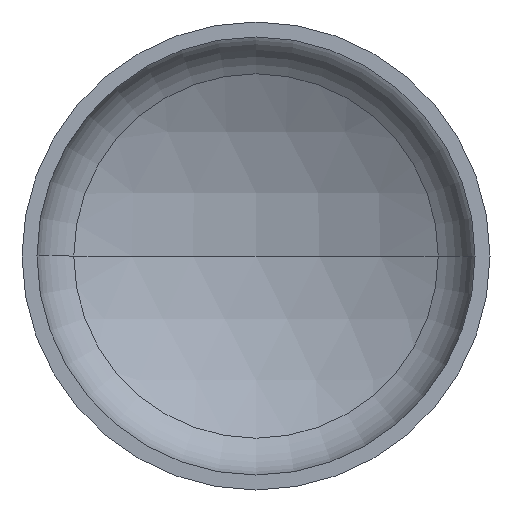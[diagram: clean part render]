
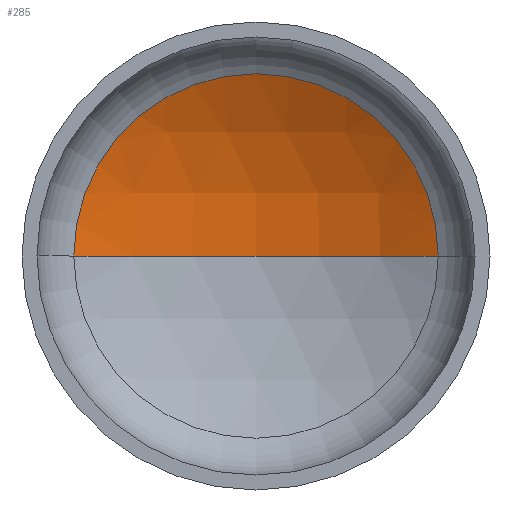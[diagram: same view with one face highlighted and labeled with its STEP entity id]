
A CAD part, front view. The second image highlights one B-rep face of the part: STEP entity #285.
In plain terms, the highlighted spherical face has radius 2400 mm.
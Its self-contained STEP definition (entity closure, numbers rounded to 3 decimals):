
#17 = VERTEX_POINT ( 'NONE', #179 ) ;
#30 = EDGE_LOOP ( 'NONE', ( #375, #81, #51 ) ) ;
#36 = AXIS2_PLACEMENT_3D ( 'NONE', #320, #339, #209 ) ;
#51 = ORIENTED_EDGE ( 'NONE', *, *, #172, .T. ) ;
#53 = AXIS2_PLACEMENT_3D ( 'NONE', #315, #181, #336 ) ;
#60 = AXIS2_PLACEMENT_3D ( 'NONE', #227, #385, #402 ) ;
#62 = AXIS2_PLACEMENT_3D ( 'NONE', #297, #165, #322 ) ;
#68 = VERTEX_POINT ( 'NONE', #249 ) ;
#81 = ORIENTED_EDGE ( 'NONE', *, *, #186, .T. ) ;
#124 = VERTEX_POINT ( 'NONE', #401 ) ;
#165 = DIRECTION ( 'NONE',  ( 0., -1., 0. ) ) ;
#168 = CIRCLE ( 'NONE', #53, 2400. ) ;
#172 = EDGE_CURVE ( 'NONE', #124, #17, #288, .T. ) ;
#179 = CARTESIAN_POINT ( 'NONE',  ( -1167.835, 501.868, 0. ) ) ;
#181 = DIRECTION ( 'NONE',  ( 0., 0., 1. ) ) ;
#186 = EDGE_CURVE ( 'NONE', #68, #124, #343, .T. ) ;
#192 = EDGE_CURVE ( 'NONE', #68, #17, #168, .T. ) ;
#206 = FACE_OUTER_BOUND ( 'NONE', #30, .T. ) ;
#209 = DIRECTION ( 'NONE',  ( -1., 0., 0. ) ) ;
#214 = SPHERICAL_SURFACE ( 'NONE', #36, 2400. ) ;
#227 = CARTESIAN_POINT ( 'NONE',  ( 0., -1594.835, 0. ) ) ;
#249 = CARTESIAN_POINT ( 'NONE',  ( 0., 805.165, 0. ) ) ;
#285 = ADVANCED_FACE ( 'NONE', ( #206 ), #214, .F. ) ;
#288 = CIRCLE ( 'NONE', #62, 1167.835 ) ;
#297 = CARTESIAN_POINT ( 'NONE',  ( 0., 501.868, 0. ) ) ;
#315 = CARTESIAN_POINT ( 'NONE',  ( 0., -1594.835, 0. ) ) ;
#320 = CARTESIAN_POINT ( 'NONE',  ( 0., -1594.835, 0. ) ) ;
#322 = DIRECTION ( 'NONE',  ( 1., 0., 0. ) ) ;
#336 = DIRECTION ( 'NONE',  ( 1., 0., 0. ) ) ;
#339 = DIRECTION ( 'NONE',  ( 0., 0., -1. ) ) ;
#343 = CIRCLE ( 'NONE', #60, 2400. ) ;
#375 = ORIENTED_EDGE ( 'NONE', *, *, #192, .F. ) ;
#385 = DIRECTION ( 'NONE',  ( 0., 0., -1. ) ) ;
#401 = CARTESIAN_POINT ( 'NONE',  ( 1167.835, 501.868, 0. ) ) ;
#402 = DIRECTION ( 'NONE',  ( -1., 0., 0. ) ) ;
